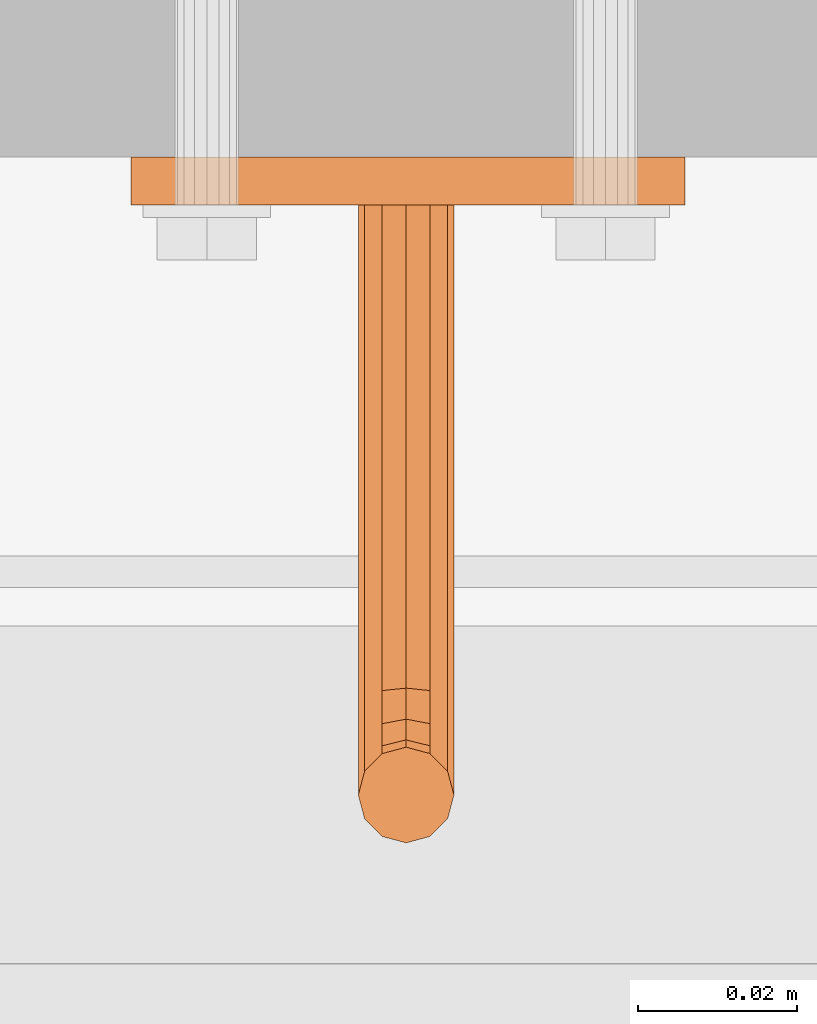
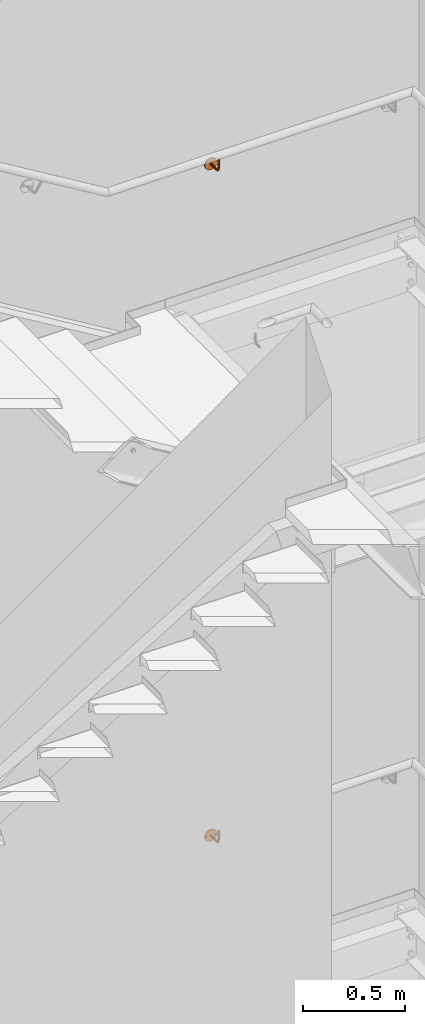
# One storey, part 397 of 410: 2 proxies.
"""IFC2X3 building model written with IfcOpenShell, lengths in millimetres."""

from ifc_helpers import new_model, entity, si_unit, converted_unit, origin_with_axes, place, context, project, spatial, faceted_brep, element, save


model = new_model("IFC2X3")

# Units and contexts
model_context = context("Model", 3, precision=1e-09, world=origin_with_axes())
ifc_project = project(units=[si_unit("LENGTHUNIT", "METRE", prefix="MILLI"), si_unit("AREAUNIT", "SQUARE_METRE"), si_unit("VOLUMEUNIT", "CUBIC_METRE"), converted_unit("PLANEANGLEUNIT", "DEGREE", entity("IfcPlaneAngleMeasure", 0.01745329), si_unit("PLANEANGLEUNIT", "RADIAN"), dimensions=[0, 0, 0, 0, 0, 0, 0])], contexts=[model_context])

# Site, building, storey
site_placement = place(None, origin_with_axes())
site = spatial("IfcSite", under=ifc_project, at=site_placement, Name="mKR Teilneubau & Sanierung BA1 - Ostfildern", CompositionType="ELEMENT")
building_placement = place(site_placement, origin_with_axes())
building = spatial("IfcBuilding", under=site, at=building_placement, Name="Struktur 1", CompositionType="ELEMENT")
storey_placement = place(building_placement, origin_with_axes())
storey = spatial("IfcBuildingStorey", under=building, at=storey_placement, Name="Default Storey", CompositionType="ELEMENT", Elevation=0.0)

# Proxies
proxy_1_placement = place(None, origin_with_axes())
element("IfcBuildingElementProxy", 1, at=proxy_1_placement, inside=storey, ObjectType="-", context=model_context, shape_type="Brep", body=[
    faceted_brep([(2081.31860902, 18620.000061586, 2647.7684785), (2081.31860902, 18614.000061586, 2647.7684785), (2080.749216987, 18614.000061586, 2645.6434785), (2080.749216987, 18620.000061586, 2645.6434785), (2129.142402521, 18614.000061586, 2674.944305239), (2118.591209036, 18614.000061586, 2679.572487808), (2107.108939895, 18614.000061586, 2680.523935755), (2095.939877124, 18614.000061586, 2677.695544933), (2086.29436198, 18614.000061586, 2671.393815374), (2079.217635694, 18614.000061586, 2662.301637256), (2075.476571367, 18614.000061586, 2651.40428916), (2075.476571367, 18614.000061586, 2639.88266784), (2079.217635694, 18614.000061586, 2628.985319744), (2086.29436198, 18614.000061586, 2619.893141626), (2095.939877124, 18614.000061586, 2613.591412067), (2107.108939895, 18614.000061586, 2610.763021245), (2118.591209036, 18614.000061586, 2611.714469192), (2129.142402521, 18614.000061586, 2616.342651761), (2137.619134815, 18614.000061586, 2624.146033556), (2143.102820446, 18614.000061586, 2634.278997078), (2144.999216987, 18614.000061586, 2645.6434785), (2143.102820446, 18614.000061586, 2657.007959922), (2137.619134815, 18614.000061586, 2667.140923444), (2082.874216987, 18614.000061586, 2649.324086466), (2084.999216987, 18614.000061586, 2649.8934785), (2087.124216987, 18614.000061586, 2649.324086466), (2088.679824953, 18614.000061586, 2647.7684785), (2089.249216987, 18614.000061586, 2645.6434785), (2088.679824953, 18614.000061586, 2643.5184785), (2087.124216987, 18614.000061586, 2641.962870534), (2084.999216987, 18614.000061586, 2641.3934785), (2082.874216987, 18614.000061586, 2641.962870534), (2081.31860902, 18614.000061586, 2643.5184785), (2131.31860902, 18614.000061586, 2647.7684785), (2132.874216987, 18614.000061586, 2649.324086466), (2134.999216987, 18614.000061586, 2649.8934785), (2137.124216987, 18614.000061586, 2649.324086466), (2138.679824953, 18614.000061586, 2647.7684785), (2139.249216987, 18614.000061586, 2645.6434785), (2138.679824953, 18614.000061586, 2643.5184785), (2137.124216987, 18614.000061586, 2641.962870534), (2134.999216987, 18614.000061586, 2641.3934785), (2132.874216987, 18614.000061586, 2641.962870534), (2131.31860902, 18614.000061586, 2643.5184785), (2130.749216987, 18614.000061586, 2645.6434785), (2082.874216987, 18620.000061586, 2649.324086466), (2129.142402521, 18620.000061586, 2616.342651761), (2118.591209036, 18620.000061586, 2611.714469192), (2107.108939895, 18620.000061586, 2610.763021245), (2095.939877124, 18620.000061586, 2613.591412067), (2086.29436198, 18620.000061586, 2619.893141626), (2079.217635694, 18620.000061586, 2628.985319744), (2075.476571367, 18620.000061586, 2639.88266784), (2075.476571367, 18620.000061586, 2651.40428916), (2079.217635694, 18620.000061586, 2662.301637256), (2086.29436198, 18620.000061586, 2671.393815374), (2095.939877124, 18620.000061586, 2677.695544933), (2107.108939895, 18620.000061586, 2680.523935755), (2118.591209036, 18620.000061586, 2679.572487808), (2129.142402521, 18620.000061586, 2674.944305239), (2137.619134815, 18620.000061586, 2667.140923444), (2143.102820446, 18620.000061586, 2657.007959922), (2144.999216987, 18620.000061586, 2645.6434785), (2143.102820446, 18620.000061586, 2634.278997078), (2137.619134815, 18620.000061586, 2624.146033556), (2081.31860902, 18620.000061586, 2643.5184785), (2082.874216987, 18620.000061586, 2641.962870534), (2084.999216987, 18620.000061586, 2641.3934785), (2087.124216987, 18620.000061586, 2641.962870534), (2088.679824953, 18620.000061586, 2643.5184785), (2089.249216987, 18620.000061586, 2645.6434785), (2088.679824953, 18620.000061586, 2647.7684785), (2087.124216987, 18620.000061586, 2649.324086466), (2084.999216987, 18620.000061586, 2649.8934785), (2131.31860902, 18620.000061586, 2643.5184785), (2132.874216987, 18620.000061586, 2641.962870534), (2134.999216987, 18620.000061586, 2641.3934785), (2137.124216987, 18620.000061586, 2641.962870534), (2138.679824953, 18620.000061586, 2643.5184785), (2139.249216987, 18620.000061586, 2645.6434785), (2138.679824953, 18620.000061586, 2647.7684785), (2137.124216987, 18620.000061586, 2649.324086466), (2134.999216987, 18620.000061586, 2649.8934785), (2132.874216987, 18620.000061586, 2649.324086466), (2131.31860902, 18620.000061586, 2647.7684785), (2130.749216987, 18620.000061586, 2645.6434785)], [[[0, 1, 2, 3]], [[4, 5, 6, 7, 8, 9, 10, 11, 12, 13, 14, 15, 16, 17, 18, 19, 20, 21, 22], [2, 1, 23, 24, 25, 26, 27, 28, 29, 30, 31, 32], [33, 34, 35, 36, 37, 38, 39, 40, 41, 42, 43, 44]], [[1, 0, 45, 23]], [[46, 47, 48, 49, 50, 51, 52, 53, 54, 55, 56, 57, 58, 59, 60, 61, 62, 63, 64], [0, 3, 65, 66, 67, 68, 69, 70, 71, 72, 73, 45], [74, 75, 76, 77, 78, 79, 80, 81, 82, 83, 84, 85]], [[3, 2, 32, 65]], [[10, 53, 52, 11]], [[65, 32, 31, 66]], [[23, 45, 73, 24]], [[53, 10, 9, 54]], [[66, 31, 30, 67]], [[11, 52, 51, 12]], [[24, 73, 72, 25]], [[8, 55, 54, 9]], [[67, 30, 29, 68]], [[55, 8, 7, 56]], [[50, 13, 12, 51]], [[25, 72, 71, 26]], [[13, 50, 49, 14]], [[68, 29, 28, 69]], [[26, 71, 70, 27]], [[56, 7, 6, 57]], [[69, 28, 27, 70]], [[14, 49, 48, 15]], [[57, 6, 5, 58]], [[44, 85, 84, 33]], [[15, 48, 47, 16]], [[85, 44, 43, 74]], [[33, 84, 83, 34]], [[58, 5, 4, 59]], [[16, 47, 46, 17]], [[74, 43, 42, 75]], [[34, 83, 82, 35]], [[59, 4, 22, 60]], [[17, 46, 64, 18]], [[75, 42, 41, 76]], [[35, 82, 81, 36]], [[60, 22, 21, 61]], [[18, 64, 63, 19]], [[76, 41, 40, 77]], [[20, 62, 61, 21]], [[36, 81, 80, 37]], [[62, 20, 19, 63]], [[77, 40, 39, 78]], [[37, 80, 79, 38]], [[78, 39, 38, 79]]]),
    faceted_brep([(2115.999216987, 18558.000061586, 2645.6434785), (2115.999216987, 18614.000061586, 2645.6434785), (2115.195369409, 18614.000061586, 2648.6434785), (2115.195369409, 18558.000061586, 2648.6434785), (2115.195369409, 18537.000061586, 2663.6434785), (2115.195369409, 18537.000061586, 2720.6434785), (2112.999216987, 18534.803909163, 2720.6434785), (2112.999216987, 18534.803909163, 2663.6434785), (2115.999216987, 18540.000061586, 2663.6434785), (2115.999216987, 18540.000061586, 2720.6434785), (2112.999216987, 18536.569611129, 2654.766695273), (2115.195369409, 18538.598591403, 2655.60712642), (2106.999216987, 18614.000061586, 2640.447326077), (2104.803064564, 18614.000061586, 2642.6434785), (2103.999216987, 18614.000061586, 2645.6434785), (2104.803064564, 18614.000061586, 2648.6434785), (2106.999216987, 18614.000061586, 2650.839630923), (2109.999216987, 18614.000061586, 2651.6434785), (2112.999216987, 18614.000061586, 2650.839630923), (2115.195369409, 18614.000061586, 2642.6434785), (2112.999216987, 18614.000061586, 2640.447326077), (2109.999216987, 18614.000061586, 2639.6434785), (2115.195369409, 18558.000061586, 2642.6434785), (2115.195369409, 18552.2598101, 2649.785285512), (2115.999216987, 18551.111759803, 2647.013646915), (2106.999216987, 18545.196214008, 2720.6434785), (2104.803064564, 18543.000061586, 2720.6434785), (2103.999216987, 18540.000061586, 2720.6434785), (2104.803064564, 18537.000061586, 2720.6434785), (2106.999216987, 18534.803909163, 2720.6434785), (2109.999216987, 18534.000061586, 2720.6434785), (2115.195369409, 18543.000061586, 2720.6434785), (2112.999216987, 18545.196214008, 2720.6434785), (2109.999216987, 18546.000061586, 2720.6434785), (2115.999216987, 18541.37023, 2656.755176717), (2115.195369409, 18543.150819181, 2648.794236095), (2115.999216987, 18545.272139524, 2650.915556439), (2112.999216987, 18558.000061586, 2650.839630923), (2115.195369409, 18549.963709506, 2644.242008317), (2109.999216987, 18534.000061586, 2663.6434785), (2115.195369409, 18543.000061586, 2663.6434785), (2109.999216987, 18535.826952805, 2654.459076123), (2112.999216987, 18541.59790491, 2647.241321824), (2115.195369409, 18547.393459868, 2653.036876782), (2112.999216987, 18553.100241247, 2651.814265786), (2112.999216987, 18558.000061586, 2640.447326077), (2115.195369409, 18544.141868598, 2657.903227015), (2109.999216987, 18558.000061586, 2651.6434785), (2112.999216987, 18549.123278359, 2642.213028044), (2106.999216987, 18534.803909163, 2663.6434785), (2112.999216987, 18545.196214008, 2663.6434785), (2106.999216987, 18536.569611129, 2654.766695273), (2109.999216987, 18541.029498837, 2646.672915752), (2112.999216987, 18548.946374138, 2654.589791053), (2109.999216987, 18553.407860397, 2652.55692411), (2109.999216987, 18558.000061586, 2639.6434785), (2112.999216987, 18546.170848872, 2658.743658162), (2104.803064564, 18537.000061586, 2663.6434785), (2106.999216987, 18558.000061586, 2650.839630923), (2109.999216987, 18548.815659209, 2641.47036972), (2109.999216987, 18546.000061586, 2663.6434785), (2104.803064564, 18538.598591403, 2655.60712642), (2106.999216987, 18541.59790491, 2647.241321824), (2109.999216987, 18549.514780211, 2655.158197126), (2106.999216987, 18553.100241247, 2651.814265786), (2106.999216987, 18558.000061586, 2640.447326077), (2109.999216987, 18546.913507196, 2659.051277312), (2103.999216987, 18540.000061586, 2663.6434785), (2104.803064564, 18558.000061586, 2648.6434785), (2106.999216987, 18549.123278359, 2642.213028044), (2106.999216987, 18545.196214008, 2663.6434785), (2104.803064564, 18543.000061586, 2663.6434785), (2103.999216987, 18541.37023, 2656.755176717), (2104.803064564, 18543.150819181, 2648.794236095), (2106.999216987, 18548.946374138, 2654.589791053), (2104.803064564, 18552.2598101, 2649.785285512), (2103.999216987, 18558.000061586, 2645.6434785), (2104.803064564, 18558.000061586, 2642.6434785), (2106.999216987, 18546.170848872, 2658.743658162), (2104.803064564, 18549.963709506, 2644.242008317), (2104.803064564, 18544.141868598, 2657.903227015), (2103.999216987, 18545.272139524, 2650.915556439), (2103.999216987, 18551.111759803, 2647.013646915), (2104.803064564, 18547.393459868, 2653.036876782)], [[[0, 1, 2, 3]], [[4, 5, 6, 7]], [[5, 4, 8, 9]], [[4, 7, 10, 11]], [[12, 13, 14, 15, 16, 17, 18, 2, 1, 19, 20, 21]], [[1, 0, 22, 19]], [[0, 3, 23, 24]], [[25, 26, 27, 28, 29, 30, 6, 5, 9, 31, 32, 33]], [[11, 34, 8, 4]], [[35, 36, 34, 11]], [[3, 2, 18, 37]], [[24, 38, 22, 0]], [[36, 35, 38, 24]], [[7, 6, 30, 39]], [[9, 8, 40, 31]], [[7, 39, 41, 10]], [[11, 10, 42, 35]], [[24, 23, 43, 36]], [[3, 37, 44, 23]], [[19, 22, 45, 20]], [[36, 43, 46, 34]], [[34, 46, 40, 8]], [[37, 18, 17, 47]], [[38, 48, 45, 22]], [[35, 42, 48, 38]], [[39, 30, 29, 49]], [[31, 40, 50, 32]], [[39, 49, 51, 41]], [[10, 41, 52, 42]], [[23, 44, 53, 43]], [[37, 47, 54, 44]], [[20, 45, 55, 21]], [[43, 53, 56, 46]], [[46, 56, 50, 40]], [[49, 29, 28, 57]], [[47, 17, 16, 58]], [[48, 59, 55, 45]], [[42, 52, 59, 48]], [[32, 50, 60, 33]], [[49, 57, 61, 51]], [[41, 51, 62, 52]], [[44, 54, 63, 53]], [[47, 58, 64, 54]], [[21, 55, 65, 12]], [[56, 66, 60, 50]], [[53, 63, 66, 56]], [[57, 28, 27, 67]], [[58, 16, 15, 68]], [[59, 69, 65, 55]], [[52, 62, 69, 59]], [[33, 60, 70, 25]], [[26, 71, 67, 27]], [[25, 70, 71, 26]], [[57, 67, 72, 61]], [[51, 61, 73, 62]], [[54, 64, 74, 63]], [[58, 68, 75, 64]], [[14, 76, 68, 15]], [[13, 77, 76, 14]], [[12, 65, 77, 13]], [[66, 78, 70, 60]], [[63, 74, 78, 66]], [[69, 79, 77, 65]], [[62, 73, 79, 69]], [[67, 71, 80, 72]], [[71, 70, 78, 80]], [[61, 72, 81, 73]], [[68, 76, 82, 75]], [[64, 75, 83, 74]], [[76, 77, 79, 82]], [[74, 83, 80, 78]], [[73, 81, 82, 79]], [[72, 80, 83, 81]], [[75, 82, 81, 83]]]),
])
proxy_2_placement = place(None, origin_with_axes())
element("IfcBuildingElementProxy", 2, at=proxy_2_placement, inside=storey, ObjectType="-", context=model_context, shape_type="Brep", body=[
    faceted_brep([(2081.31860902, 18620.000061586, 6659.725), (2081.31860902, 18614.000061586, 6659.725), (2080.749216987, 18614.000061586, 6657.6), (2080.749216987, 18620.000061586, 6657.6), (2129.142402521, 18614.000061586, 6686.900826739), (2118.591209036, 18614.000061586, 6691.529009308), (2107.108939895, 18614.000061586, 6692.480457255), (2095.939877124, 18614.000061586, 6689.652066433), (2086.29436198, 18614.000061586, 6683.350336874), (2079.217635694, 18614.000061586, 6674.258158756), (2075.476571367, 18614.000061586, 6663.36081066), (2075.476571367, 18614.000061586, 6651.83918934), (2079.217635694, 18614.000061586, 6640.941841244), (2086.29436198, 18614.000061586, 6631.849663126), (2095.939877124, 18614.000061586, 6625.547933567), (2107.108939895, 18614.000061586, 6622.719542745), (2118.591209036, 18614.000061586, 6623.670990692), (2129.142402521, 18614.000061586, 6628.299173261), (2137.619134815, 18614.000061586, 6636.102555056), (2143.102820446, 18614.000061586, 6646.235518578), (2144.999216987, 18614.000061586, 6657.6), (2143.102820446, 18614.000061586, 6668.964481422), (2137.619134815, 18614.000061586, 6679.097444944), (2082.874216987, 18614.000061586, 6661.280607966), (2084.999216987, 18614.000061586, 6661.85), (2087.124216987, 18614.000061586, 6661.280607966), (2088.679824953, 18614.000061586, 6659.725), (2089.249216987, 18614.000061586, 6657.6), (2088.679824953, 18614.000061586, 6655.475), (2087.124216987, 18614.000061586, 6653.919392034), (2084.999216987, 18614.000061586, 6653.35), (2082.874216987, 18614.000061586, 6653.919392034), (2081.31860902, 18614.000061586, 6655.475), (2131.31860902, 18614.000061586, 6659.725), (2132.874216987, 18614.000061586, 6661.280607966), (2134.999216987, 18614.000061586, 6661.85), (2137.124216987, 18614.000061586, 6661.280607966), (2138.679824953, 18614.000061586, 6659.725), (2139.249216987, 18614.000061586, 6657.6), (2138.679824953, 18614.000061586, 6655.475), (2137.124216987, 18614.000061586, 6653.919392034), (2134.999216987, 18614.000061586, 6653.35), (2132.874216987, 18614.000061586, 6653.919392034), (2131.31860902, 18614.000061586, 6655.475), (2130.749216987, 18614.000061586, 6657.6), (2082.874216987, 18620.000061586, 6661.280607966), (2129.142402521, 18620.000061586, 6628.299173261), (2118.591209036, 18620.000061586, 6623.670990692), (2107.108939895, 18620.000061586, 6622.719542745), (2095.939877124, 18620.000061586, 6625.547933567), (2086.29436198, 18620.000061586, 6631.849663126), (2079.217635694, 18620.000061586, 6640.941841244), (2075.476571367, 18620.000061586, 6651.83918934), (2075.476571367, 18620.000061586, 6663.36081066), (2079.217635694, 18620.000061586, 6674.258158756), (2086.29436198, 18620.000061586, 6683.350336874), (2095.939877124, 18620.000061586, 6689.652066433), (2107.108939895, 18620.000061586, 6692.480457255), (2118.591209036, 18620.000061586, 6691.529009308), (2129.142402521, 18620.000061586, 6686.900826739), (2137.619134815, 18620.000061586, 6679.097444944), (2143.102820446, 18620.000061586, 6668.964481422), (2144.999216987, 18620.000061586, 6657.6), (2143.102820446, 18620.000061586, 6646.235518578), (2137.619134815, 18620.000061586, 6636.102555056), (2081.31860902, 18620.000061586, 6655.475), (2082.874216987, 18620.000061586, 6653.919392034), (2084.999216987, 18620.000061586, 6653.35), (2087.124216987, 18620.000061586, 6653.919392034), (2088.679824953, 18620.000061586, 6655.475), (2089.249216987, 18620.000061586, 6657.6), (2088.679824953, 18620.000061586, 6659.725), (2087.124216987, 18620.000061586, 6661.280607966), (2084.999216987, 18620.000061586, 6661.85), (2131.31860902, 18620.000061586, 6655.475), (2132.874216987, 18620.000061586, 6653.919392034), (2134.999216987, 18620.000061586, 6653.35), (2137.124216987, 18620.000061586, 6653.919392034), (2138.679824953, 18620.000061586, 6655.475), (2139.249216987, 18620.000061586, 6657.6), (2138.679824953, 18620.000061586, 6659.725), (2137.124216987, 18620.000061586, 6661.280607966), (2134.999216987, 18620.000061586, 6661.85), (2132.874216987, 18620.000061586, 6661.280607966), (2131.31860902, 18620.000061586, 6659.725), (2130.749216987, 18620.000061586, 6657.6)], [[[0, 1, 2, 3]], [[4, 5, 6, 7, 8, 9, 10, 11, 12, 13, 14, 15, 16, 17, 18, 19, 20, 21, 22], [2, 1, 23, 24, 25, 26, 27, 28, 29, 30, 31, 32], [33, 34, 35, 36, 37, 38, 39, 40, 41, 42, 43, 44]], [[1, 0, 45, 23]], [[46, 47, 48, 49, 50, 51, 52, 53, 54, 55, 56, 57, 58, 59, 60, 61, 62, 63, 64], [0, 3, 65, 66, 67, 68, 69, 70, 71, 72, 73, 45], [74, 75, 76, 77, 78, 79, 80, 81, 82, 83, 84, 85]], [[3, 2, 32, 65]], [[10, 53, 52, 11]], [[65, 32, 31, 66]], [[23, 45, 73, 24]], [[53, 10, 9, 54]], [[66, 31, 30, 67]], [[11, 52, 51, 12]], [[24, 73, 72, 25]], [[8, 55, 54, 9]], [[67, 30, 29, 68]], [[55, 8, 7, 56]], [[50, 13, 12, 51]], [[25, 72, 71, 26]], [[13, 50, 49, 14]], [[68, 29, 28, 69]], [[26, 71, 70, 27]], [[56, 7, 6, 57]], [[69, 28, 27, 70]], [[14, 49, 48, 15]], [[57, 6, 5, 58]], [[44, 85, 84, 33]], [[15, 48, 47, 16]], [[85, 44, 43, 74]], [[33, 84, 83, 34]], [[58, 5, 4, 59]], [[16, 47, 46, 17]], [[74, 43, 42, 75]], [[34, 83, 82, 35]], [[59, 4, 22, 60]], [[17, 46, 64, 18]], [[75, 42, 41, 76]], [[35, 82, 81, 36]], [[60, 22, 21, 61]], [[18, 64, 63, 19]], [[76, 41, 40, 77]], [[20, 62, 61, 21]], [[36, 81, 80, 37]], [[62, 20, 19, 63]], [[77, 40, 39, 78]], [[37, 80, 79, 38]], [[78, 39, 38, 79]]]),
    faceted_brep([(2115.999216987, 18558.000061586, 6657.6), (2115.999216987, 18614.000061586, 6657.6), (2115.195369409, 18614.000061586, 6660.6), (2115.195369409, 18558.000061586, 6660.6), (2115.195369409, 18537.000061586, 6675.6), (2115.195369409, 18537.000061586, 6732.6), (2112.999216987, 18534.803909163, 6732.6), (2112.999216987, 18534.803909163, 6675.6), (2115.999216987, 18540.000061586, 6675.6), (2115.999216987, 18540.000061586, 6732.6), (2112.999216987, 18536.569611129, 6666.723216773), (2115.195369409, 18538.598591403, 6667.56364792), (2106.999216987, 18614.000061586, 6652.403847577), (2104.803064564, 18614.000061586, 6654.6), (2103.999216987, 18614.000061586, 6657.6), (2104.803064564, 18614.000061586, 6660.6), (2106.999216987, 18614.000061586, 6662.796152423), (2109.999216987, 18614.000061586, 6663.6), (2112.999216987, 18614.000061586, 6662.796152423), (2115.195369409, 18614.000061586, 6654.6), (2112.999216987, 18614.000061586, 6652.403847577), (2109.999216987, 18614.000061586, 6651.6), (2115.195369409, 18558.000061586, 6654.6), (2115.195369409, 18552.2598101, 6661.741807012), (2115.999216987, 18551.111759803, 6658.970168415), (2106.999216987, 18545.196214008, 6732.6), (2104.803064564, 18543.000061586, 6732.6), (2103.999216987, 18540.000061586, 6732.6), (2104.803064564, 18537.000061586, 6732.6), (2106.999216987, 18534.803909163, 6732.6), (2109.999216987, 18534.000061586, 6732.6), (2115.195369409, 18543.000061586, 6732.6), (2112.999216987, 18545.196214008, 6732.6), (2109.999216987, 18546.000061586, 6732.6), (2115.999216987, 18541.37023, 6668.711698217), (2115.195369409, 18543.150819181, 6660.750757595), (2115.999216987, 18545.272139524, 6662.872077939), (2112.999216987, 18558.000061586, 6662.796152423), (2115.195369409, 18549.963709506, 6656.198529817), (2109.999216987, 18534.000061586, 6675.6), (2115.195369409, 18543.000061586, 6675.6), (2109.999216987, 18535.826952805, 6666.415597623), (2112.999216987, 18541.59790491, 6659.197843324), (2115.195369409, 18547.393459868, 6664.993398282), (2112.999216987, 18553.100241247, 6663.770787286), (2112.999216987, 18558.000061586, 6652.403847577), (2115.195369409, 18544.141868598, 6669.859748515), (2109.999216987, 18558.000061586, 6663.6), (2112.999216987, 18549.123278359, 6654.169549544), (2106.999216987, 18534.803909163, 6675.6), (2112.999216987, 18545.196214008, 6675.6), (2106.999216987, 18536.569611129, 6666.723216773), (2109.999216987, 18541.029498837, 6658.629437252), (2112.999216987, 18548.946374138, 6666.546312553), (2109.999216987, 18553.407860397, 6664.51344561), (2109.999216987, 18558.000061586, 6651.6), (2112.999216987, 18546.170848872, 6670.700179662), (2104.803064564, 18537.000061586, 6675.6), (2106.999216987, 18558.000061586, 6662.796152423), (2109.999216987, 18548.815659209, 6653.42689122), (2109.999216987, 18546.000061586, 6675.6), (2104.803064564, 18538.598591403, 6667.56364792), (2106.999216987, 18541.59790491, 6659.197843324), (2109.999216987, 18549.514780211, 6667.114718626), (2106.999216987, 18553.100241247, 6663.770787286), (2106.999216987, 18558.000061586, 6652.403847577), (2109.999216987, 18546.913507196, 6671.007798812), (2103.999216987, 18540.000061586, 6675.6), (2104.803064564, 18558.000061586, 6660.6), (2106.999216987, 18549.123278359, 6654.169549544), (2106.999216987, 18545.196214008, 6675.6), (2104.803064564, 18543.000061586, 6675.6), (2103.999216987, 18541.37023, 6668.711698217), (2104.803064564, 18543.150819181, 6660.750757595), (2106.999216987, 18548.946374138, 6666.546312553), (2104.803064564, 18552.2598101, 6661.741807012), (2103.999216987, 18558.000061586, 6657.6), (2104.803064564, 18558.000061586, 6654.6), (2106.999216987, 18546.170848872, 6670.700179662), (2104.803064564, 18549.963709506, 6656.198529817), (2104.803064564, 18544.141868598, 6669.859748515), (2103.999216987, 18545.272139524, 6662.872077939), (2103.999216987, 18551.111759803, 6658.970168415), (2104.803064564, 18547.393459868, 6664.993398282)], [[[0, 1, 2, 3]], [[4, 5, 6, 7]], [[5, 4, 8, 9]], [[4, 7, 10, 11]], [[12, 13, 14, 15, 16, 17, 18, 2, 1, 19, 20, 21]], [[1, 0, 22, 19]], [[0, 3, 23, 24]], [[25, 26, 27, 28, 29, 30, 6, 5, 9, 31, 32, 33]], [[11, 34, 8, 4]], [[35, 36, 34, 11]], [[3, 2, 18, 37]], [[24, 38, 22, 0]], [[36, 35, 38, 24]], [[7, 6, 30, 39]], [[9, 8, 40, 31]], [[7, 39, 41, 10]], [[11, 10, 42, 35]], [[24, 23, 43, 36]], [[3, 37, 44, 23]], [[19, 22, 45, 20]], [[36, 43, 46, 34]], [[34, 46, 40, 8]], [[37, 18, 17, 47]], [[38, 48, 45, 22]], [[35, 42, 48, 38]], [[39, 30, 29, 49]], [[31, 40, 50, 32]], [[39, 49, 51, 41]], [[10, 41, 52, 42]], [[23, 44, 53, 43]], [[37, 47, 54, 44]], [[20, 45, 55, 21]], [[43, 53, 56, 46]], [[46, 56, 50, 40]], [[49, 29, 28, 57]], [[47, 17, 16, 58]], [[48, 59, 55, 45]], [[42, 52, 59, 48]], [[32, 50, 60, 33]], [[49, 57, 61, 51]], [[41, 51, 62, 52]], [[44, 54, 63, 53]], [[47, 58, 64, 54]], [[21, 55, 65, 12]], [[56, 66, 60, 50]], [[53, 63, 66, 56]], [[57, 28, 27, 67]], [[58, 16, 15, 68]], [[59, 69, 65, 55]], [[52, 62, 69, 59]], [[33, 60, 70, 25]], [[26, 71, 67, 27]], [[25, 70, 71, 26]], [[57, 67, 72, 61]], [[51, 61, 73, 62]], [[54, 64, 74, 63]], [[58, 68, 75, 64]], [[14, 76, 68, 15]], [[13, 77, 76, 14]], [[12, 65, 77, 13]], [[66, 78, 70, 60]], [[63, 74, 78, 66]], [[69, 79, 77, 65]], [[62, 73, 79, 69]], [[67, 71, 80, 72]], [[71, 70, 78, 80]], [[61, 72, 81, 73]], [[68, 76, 82, 75]], [[64, 75, 83, 74]], [[76, 77, 79, 82]], [[74, 83, 80, 78]], [[73, 81, 82, 79]], [[72, 80, 83, 81]], [[75, 82, 81, 83]]]),
])

save(model, "model.ifc")
